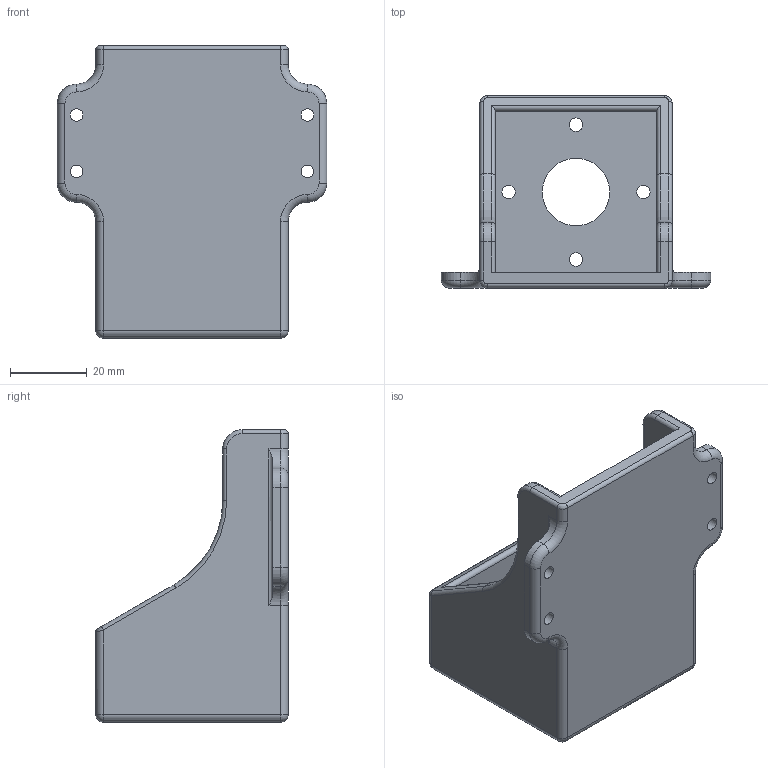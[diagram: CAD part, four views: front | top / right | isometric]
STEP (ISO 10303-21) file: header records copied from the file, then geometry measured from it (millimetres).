
FILE_DESCRIPTION(/* description */ (''),/* implementation_level */ '2;1');
FILE_NAME(/* name */ 'PARAM MOUNT NEMA 17.step',/* time_stamp */ '2026-09-01T20:05:19+01:00',/* author */ (''),/* organization */ (''),/* preprocessor_version */ 'ST-DEVELOPER v20.1',/* originating_system */ 'Autodesk Translation Framework v15.8.0.0',/* authorisation */ '');
FILE_SCHEMA (('AUTOMOTIVE_DESIGN { 1 0 10303 214 3 1 1 }'));
Length unit declared in the file: millimetre
Products named in the file (1): 2026-09-01-20-05-19-493
Bounding box: 70 x 50 x 76 mm (x, y, z)
Volume: 44168.2 mm3; surface area: 23412.6 mm2
Topology: 1 solids, 1 shells, 100 faces, 238 edges, 140 vertices
Faces by surface type: cylinder 50, plane 18, torus 16, cone 8, bspline 4, sphere 4
Full cylindrical faces by diameter (mm): 3.3 x4, 3.5 x4, 17.5 x1
Entity records: 3020 total; most frequent: CARTESIAN_POINT 563, DIRECTION 556, ORIENTED_EDGE 476, EDGE_CURVE 238, AXIS2_PLACEMENT_3D 225, VERTEX_POINT 140, CIRCLE 122, EDGE_LOOP 118
